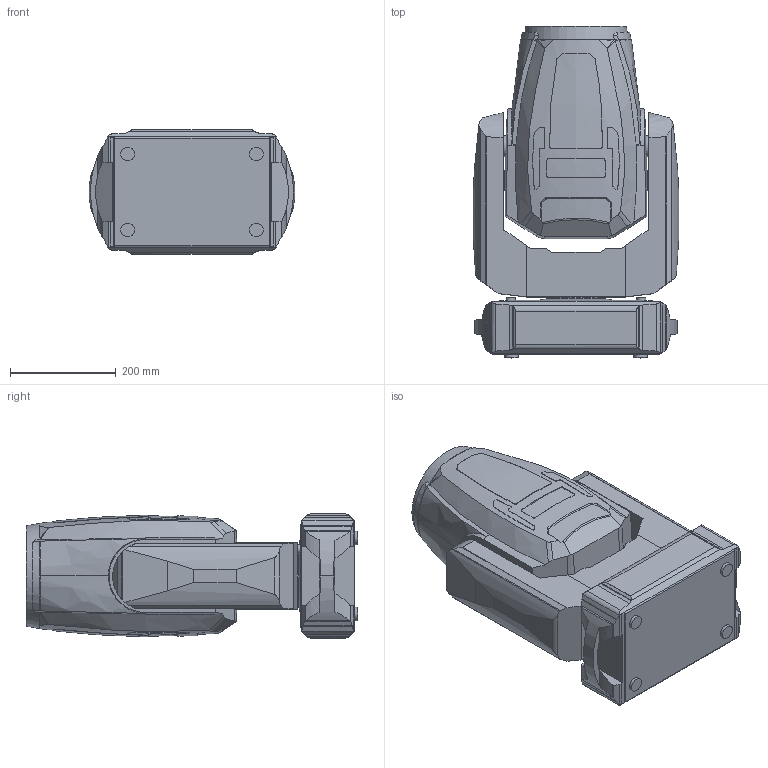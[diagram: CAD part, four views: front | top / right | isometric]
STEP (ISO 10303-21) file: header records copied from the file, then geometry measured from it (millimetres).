
FILE_DESCRIPTION(/* description */ ('Unknown'),/* implementation_level */ '2;1');
FILE_NAME(/* name */ '3D_Robin iProMotion',/* time_stamp */ '2024-02-29T09:34:45+01:00',/* author */ ('Unknown'),/* organization */ ('Unknown'),/* preprocessor_version */ 'ST-DEVELOPER v18.104',/* originating_system */ 'Solid Edge',/* authorisation */ 'Unknown');
FILE_SCHEMA (('AUTOMOTIVE_DESIGN {1 0 10303 214 3 1 1}'));
Length unit declared in the file: millimetre
Products named in the file (5): 3D_Robin iProMotion; 03_Hlava iPainte_02; 02_Rameno iPainte_02; 01_Základna iPainte_02; Kryt skla iPM
Assembly tree (4 placements, depth 2):
  3D_Robin iProMotion
    03_Hlava iPainte_02
    02_Rameno iPainte_02
    01_Základna iPainte_02
    Kryt skla iPM
Bounding box: 390 x 628.6 x 235.45 mm (x, y, z)
Volume: 33313586 mm3; surface area: 1069883.4 mm2
Topology: 4 solids, 4 shells, 425 faces, 1200 edges, 788 vertices
Faces by surface type: plane 153, cylinder 118, bspline 72, cone 54, sphere 28
Full cylindrical faces by diameter (mm): 17 x2, 26 x4, 40 x2, 80 x1, 92 x1
Entity records: 21305 total; most frequent: CARTESIAN_POINT 11812, ORIENTED_EDGE 2346, DIRECTION 1319, EDGE_CURVE 1173, VERTEX_POINT 784, B_SPLINE_CURVE_WITH_KNOTS 718, AXIS2_PLACEMENT_3D 506, EDGE_LOOP 457
